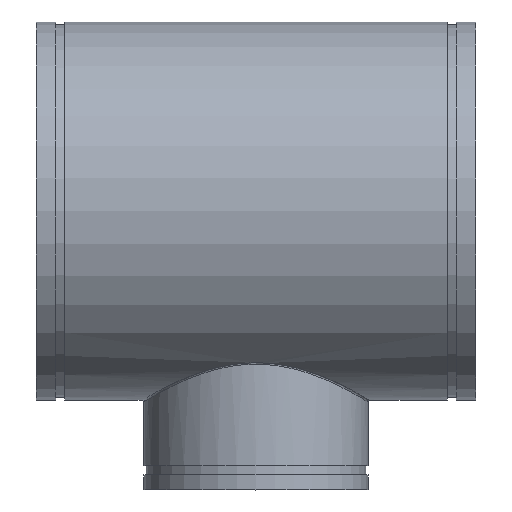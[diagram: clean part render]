
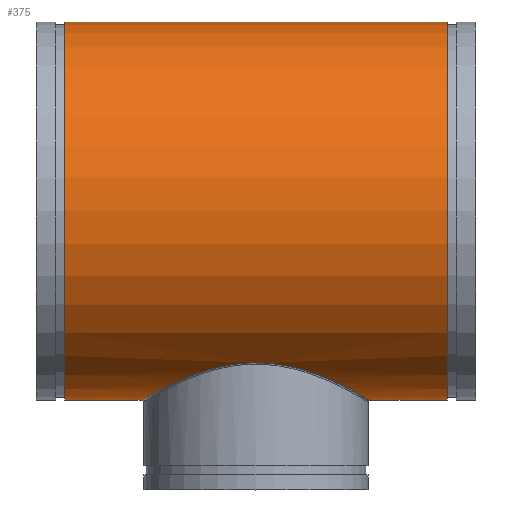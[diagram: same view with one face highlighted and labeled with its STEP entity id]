
A CAD part, top view. The second image highlights one B-rep face of the part: STEP entity #375.
In plain terms, the highlighted cylindrical face has radius 327.66 mm (diameter 655.32 mm), a full revolution.
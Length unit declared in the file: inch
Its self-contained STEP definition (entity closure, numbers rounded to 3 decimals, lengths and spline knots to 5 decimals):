
#54=FACE_BOUND('',#119,.T.);
#65=LINE('',#889,#76);
#76=VECTOR('',#483,12.9);
#87=CYLINDRICAL_SURFACE('',#415,12.9);
#98=FACE_OUTER_BOUND('',#118,.T.);
#118=EDGE_LOOP('',(#266,#267,#268,#269));
#119=EDGE_LOOP('',(#270));
#150=B_SPLINE_CURVE_WITH_KNOTS('',3,(#847,#848,#849,#850,#851,#852,#853,
#854,#855,#856,#857,#858,#859,#860,#861,#862,#863,#864,#865,#866,#867,#868,
#869,#870,#871,#872,#873,#874,#875,#876,#877,#878,#879,#880,#881,#882,#883,
#884),.UNSPECIFIED.,.T.,.F.,(4,1,1,1,1,1,1,1,1,1,1,1,1,1,1,1,1,1,1,1,1,
1,1,1,1,1,1,1,1,1,1,1,1,1,1,4),(-120.71024,-116.39916,-112.08808,
-107.777,-103.46592,-97.71781,-94.84376,
-91.96971,-91.25119,-90.53268,-89.09565,
-87.65863,-86.94011,-86.2216,-80.47349,
-74.72539,-68.97728,-66.10323,-63.22917,
-60.35512,-57.48107,-54.60701,-51.73296,
-45.98485,-40.23675,-37.36269,-34.48864,
-31.61459,-28.74053,-25.86648,-22.99243,
-17.24432,-12.93324,-8.62216,-4.31108,
0.),.UNSPECIFIED.);
#154=CIRCLE('',#416,12.9);
#155=CIRCLE('',#417,12.9);
#182=VERTEX_POINT('',#801);
#185=VERTEX_POINT('',#886);
#186=VERTEX_POINT('',#888);
#219=EDGE_CURVE('',#182,#182,#150,.T.);
#220=EDGE_CURVE('',#185,#185,#154,.T.);
#221=EDGE_CURVE('',#185,#186,#65,.T.);
#222=EDGE_CURVE('',#186,#186,#155,.T.);
#266=ORIENTED_EDGE('',*,*,#220,.T.);
#267=ORIENTED_EDGE('',*,*,#221,.T.);
#268=ORIENTED_EDGE('',*,*,#222,.T.);
#269=ORIENTED_EDGE('',*,*,#221,.F.);
#270=ORIENTED_EDGE('',*,*,#219,.F.);
#375=ADVANCED_FACE('',(#98,#54),#87,.T.);
#415=AXIS2_PLACEMENT_3D('',#885,#479,#480);
#416=AXIS2_PLACEMENT_3D('',#887,#481,#482);
#417=AXIS2_PLACEMENT_3D('',#890,#484,#485);
#479=DIRECTION('center_axis',(-1.,0.,0.));
#480=DIRECTION('ref_axis',(0.,-1.,0.));
#481=DIRECTION('center_axis',(1.,0.,0.));
#482=DIRECTION('ref_axis',(0.,-1.,0.));
#483=DIRECTION('',(1.,0.,0.));
#484=DIRECTION('center_axis',(-1.,0.,0.));
#485=DIRECTION('ref_axis',(0.,-1.,0.));
#801=CARTESIAN_POINT('',(0.,-10.34959,-7.70038));
#847=CARTESIAN_POINT('Ctrl Pts',(0.,-10.34959,
-7.70038));
#848=CARTESIAN_POINT('Ctrl Pts',(0.5972,-10.34959,-7.70038));
#849=CARTESIAN_POINT('Ctrl Pts',(1.79079,-10.45432,-7.56218));
#850=CARTESIAN_POINT('Ctrl Pts',(3.44442,-10.86484,-6.97398));
#851=CARTESIAN_POINT('Ctrl Pts',(4.89324,-11.40734,-6.06259));
#852=CARTESIAN_POINT('Ctrl Pts',(6.238,-12.03727,-4.73732));
#853=CARTESIAN_POINT('Ctrl Pts',(7.12456,-12.52298,-3.24957));
#854=CARTESIAN_POINT('Ctrl Pts',(7.59965,-12.7964,-1.76228));
#855=CARTESIAN_POINT('Ctrl Pts',(7.73681,-12.8775,-0.88617));
#856=CARTESIAN_POINT('Ctrl Pts',(7.77117,-12.89772,-0.29575));
#857=CARTESIAN_POINT('Ctrl Pts',(7.77883,-12.90228,0.09854));
#858=CARTESIAN_POINT('Ctrl Pts',(7.75967,-12.89092,0.59142));
#859=CARTESIAN_POINT('Ctrl Pts',(7.70259,-12.8573,1.08044));
#860=CARTESIAN_POINT('Ctrl Pts',(7.63448,-12.81736,1.46691));
#861=CARTESIAN_POINT('Ctrl Pts',(7.4283,-12.6974,2.42447));
#862=CARTESIAN_POINT('Ctrl Pts',(6.79947,-12.33542,3.96215));
#863=CARTESIAN_POINT('Ctrl Pts',(5.35709,-11.59989,5.72984));
#864=CARTESIAN_POINT('Ctrl Pts',(3.78531,-10.97328,6.80114));
#865=CARTESIAN_POINT('Ctrl Pts',(2.34608,-10.58872,7.37208));
#866=CARTESIAN_POINT('Ctrl Pts',(1.1944,-10.39542,7.63934));
#867=CARTESIAN_POINT('Ctrl Pts',(-0.00001,-10.32661,
7.73097));
#868=CARTESIAN_POINT('Ctrl Pts',(-1.19436,-10.39542,7.63932));
#869=CARTESIAN_POINT('Ctrl Pts',(-2.3461,-10.58873,7.37212));
#870=CARTESIAN_POINT('Ctrl Pts',(-3.78521,-10.97319,6.80108));
#871=CARTESIAN_POINT('Ctrl Pts',(-5.35716,-11.60002,5.73007));
#872=CARTESIAN_POINT('Ctrl Pts',(-6.55896,-12.21268,4.25639));
#873=CARTESIAN_POINT('Ctrl Pts',(-7.24361,-12.59119,2.87716));
#874=CARTESIAN_POINT('Ctrl Pts',(-7.59948,-12.7965,1.76262));
#875=CARTESIAN_POINT('Ctrl Pts',(-7.78266,-12.90446,0.59393));
#876=CARTESIAN_POINT('Ctrl Pts',(-7.78257,-12.90453,-0.59394));
#877=CARTESIAN_POINT('Ctrl Pts',(-7.59966,-12.79643,-1.76229));
#878=CARTESIAN_POINT('Ctrl Pts',(-7.12459,-12.52296,-3.24947));
#879=CARTESIAN_POINT('Ctrl Pts',(-6.23799,-12.03726,-4.73735));
#880=CARTESIAN_POINT('Ctrl Pts',(-4.89325,-11.40735,-6.06257));
#881=CARTESIAN_POINT('Ctrl Pts',(-3.44442,-10.86484,-6.97399));
#882=CARTESIAN_POINT('Ctrl Pts',(-1.79078,-10.45432,-7.56218));
#883=CARTESIAN_POINT('Ctrl Pts',(-0.5972,-10.34959,-7.70038));
#884=CARTESIAN_POINT('Ctrl Pts',(0.,-10.34959,
-7.70038));
#885=CARTESIAN_POINT('Origin',(15.,0.,0.));
#886=CARTESIAN_POINT('',(-13.035,12.9,0.));
#887=CARTESIAN_POINT('Origin',(-13.035,0.,0.));
#888=CARTESIAN_POINT('',(13.035,12.9,0.));
#889=CARTESIAN_POINT('',(15.,12.9,0.));
#890=CARTESIAN_POINT('Origin',(13.035,0.,0.));
